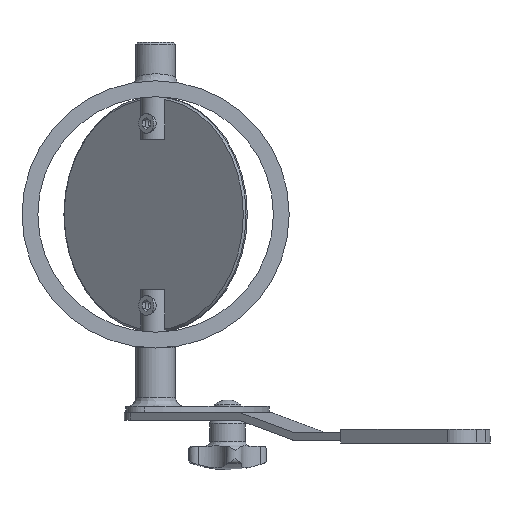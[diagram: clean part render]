
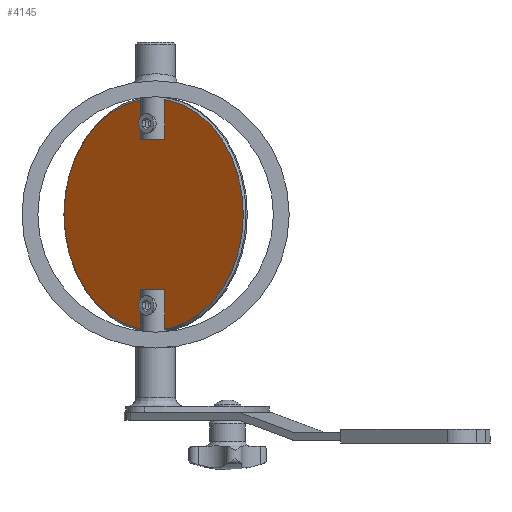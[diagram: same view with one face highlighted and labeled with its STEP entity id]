
A CAD part, front view. The second image highlights one B-rep face of the part: STEP entity #4145.
In plain terms, the highlighted planar face has unit normal (-0.634, -0.773, 0) as drawn and (0, 0, 1) by its records, which use the part's own axes.
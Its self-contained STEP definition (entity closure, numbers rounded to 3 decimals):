
#4072=CARTESIAN_POINT('',(61.557,0.,3.));
#4073=VERTEX_POINT('',#4072);
#4074=CARTESIAN_POINT('',(3.057,0.,3.));
#4075=DIRECTION('',(0.0,0.0,-1.0));
#4076=DIRECTION('',(-1.0,0.0,0.0));
#4077=AXIS2_PLACEMENT_3D('',#4074,#4075,#4076);
#4078=CIRCLE('',#4077,58.5);
#4079=EDGE_CURVE('',#4073,#4073,#4078,.T.);
#4115=CARTESIAN_POINT('',(3.057,0.,3.));
#4116=DIRECTION('',(0.0,0.0,-1.0));
#4117=DIRECTION('',(-1.0,0.0,0.0));
#4118=AXIS2_PLACEMENT_3D('',#4115,#4116,#4117);
#4119=PLANE('',#4118);
#4120=ORIENTED_EDGE('',*,*,#4079,.F.);
#4121=EDGE_LOOP('',(#4120));
#4122=FACE_OUTER_BOUND('',#4121,.T.);
#4123=CARTESIAN_POINT('',(-39.943,0.,3.));
#4124=VERTEX_POINT('',#4123);
#4125=CARTESIAN_POINT('',(-42.943,0.,3.));
#4126=DIRECTION('',(0.0,0.0,-1.0));
#4127=DIRECTION('',(-1.0,0.0,0.0));
#4128=AXIS2_PLACEMENT_3D('',#4125,#4126,#4127);
#4129=CIRCLE('',#4128,3.);
#4130=EDGE_CURVE('',#4124,#4124,#4129,.T.);
#4131=ORIENTED_EDGE('',*,*,#4130,.T.);
#4132=EDGE_LOOP('',(#4131));
#4133=FACE_BOUND('',#4132,.T.);
#4134=CARTESIAN_POINT('',(52.057,0.,3.));
#4135=VERTEX_POINT('',#4134);
#4136=CARTESIAN_POINT('',(49.057,0.,3.));
#4137=DIRECTION('',(0.0,0.0,-1.0));
#4138=DIRECTION('',(-1.0,0.0,0.0));
#4139=AXIS2_PLACEMENT_3D('',#4136,#4137,#4138);
#4140=CIRCLE('',#4139,3.);
#4141=EDGE_CURVE('',#4135,#4135,#4140,.T.);
#4142=ORIENTED_EDGE('',*,*,#4141,.T.);
#4143=EDGE_LOOP('',(#4142));
#4144=FACE_BOUND('',#4143,.T.);
#4145=ADVANCED_FACE('',(#4122,#4133,#4144),#4119,.F.);
